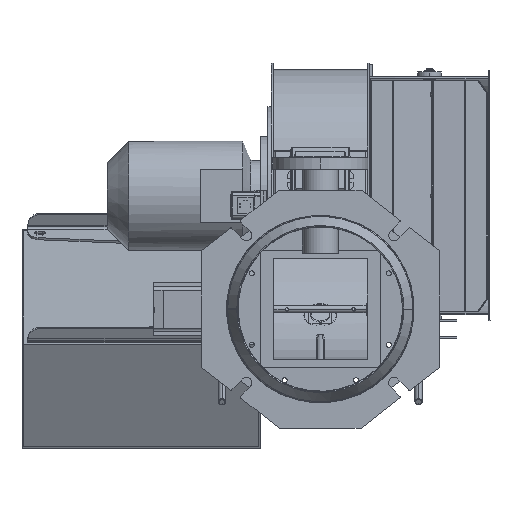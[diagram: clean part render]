
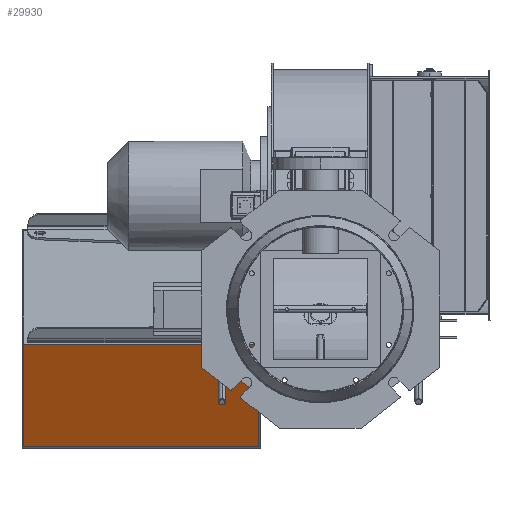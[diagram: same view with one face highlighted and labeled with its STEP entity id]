
A CAD part, front view. The second image highlights one B-rep face of the part: STEP entity #29930.
In plain terms, the highlighted planar face has unit normal (0, -0.876, -0.483).
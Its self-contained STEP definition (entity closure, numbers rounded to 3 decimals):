
#2285 = DIRECTION ( 'NONE',  ( 0., -0.483, 0.876 ) ) ;
#2985 = EDGE_CURVE ( 'NONE', #69295, #88883, #20043, .T. ) ;
#3408 = ORIENTED_EDGE ( 'NONE', *, *, #2985, .T. ) ;
#3911 = CARTESIAN_POINT ( 'NONE',  ( -501., -121.474, -277.439 ) ) ;
#7284 = VECTOR ( 'NONE', #100309, 1000. ) ;
#15375 = PLANE ( 'NONE',  #16959 ) ;
#16959 = AXIS2_PLACEMENT_3D ( 'NONE', #72502, #55816, #23989 ) ;
#17784 = CARTESIAN_POINT ( 'NONE',  ( -501., -24.884, -452.569 ) ) ;
#20043 = LINE ( 'NONE', #94015, #62145 ) ;
#23989 = DIRECTION ( 'NONE',  ( -1., 0., 0. ) ) ;
#25677 = LINE ( 'NONE', #3911, #88197 ) ;
#26565 = ORIENTED_EDGE ( 'NONE', *, *, #35631, .T. ) ;
#28318 = VERTEX_POINT ( 'NONE', #65669 ) ;
#29930 = ADVANCED_FACE ( 'NONE', ( #40272 ), #15375, .T. ) ;
#35631 = EDGE_CURVE ( 'NONE', #88883, #28318, #77793, .T. ) ;
#40272 = FACE_OUTER_BOUND ( 'NONE', #92729, .T. ) ;
#43912 = ORIENTED_EDGE ( 'NONE', *, *, #77485, .T. ) ;
#50401 = CARTESIAN_POINT ( 'NONE',  ( -501., -121.474, -277.439 ) ) ;
#50751 = LINE ( 'NONE', #50401, #7284 ) ;
#55816 = DIRECTION ( 'NONE',  ( 0., -0.876, -0.483 ) ) ;
#56004 = VERTEX_POINT ( 'NONE', #76440 ) ;
#58231 = EDGE_CURVE ( 'NONE', #56004, #69295, #50751, .T. ) ;
#61462 = DIRECTION ( 'NONE',  ( -1., 0., 0. ) ) ;
#62145 = VECTOR ( 'NONE', #67961, 1000. ) ;
#64837 = CARTESIAN_POINT ( 'NONE',  ( -101., -24.884, -452.569 ) ) ;
#65669 = CARTESIAN_POINT ( 'NONE',  ( -101., -121.474, -277.439 ) ) ;
#67548 = VECTOR ( 'NONE', #2285, 1000. ) ;
#67961 = DIRECTION ( 'NONE',  ( 1., 0., 0. ) ) ;
#68031 = CARTESIAN_POINT ( 'NONE',  ( -101., -121.474, -277.439 ) ) ;
#69295 = VERTEX_POINT ( 'NONE', #17784 ) ;
#72502 = CARTESIAN_POINT ( 'NONE',  ( -101., -121.474, -277.439 ) ) ;
#76440 = CARTESIAN_POINT ( 'NONE',  ( -501., -121.474, -277.439 ) ) ;
#77485 = EDGE_CURVE ( 'NONE', #28318, #56004, #25677, .T. ) ;
#77793 = LINE ( 'NONE', #68031, #67548 ) ;
#88197 = VECTOR ( 'NONE', #61462, 1000. ) ;
#88883 = VERTEX_POINT ( 'NONE', #64837 ) ;
#89045 = ORIENTED_EDGE ( 'NONE', *, *, #58231, .T. ) ;
#92729 = EDGE_LOOP ( 'NONE', ( #26565, #43912, #89045, #3408 ) ) ;
#94015 = CARTESIAN_POINT ( 'NONE',  ( -101., -24.884, -452.569 ) ) ;
#100309 = DIRECTION ( 'NONE',  ( 0., 0.483, -0.876 ) ) ;
